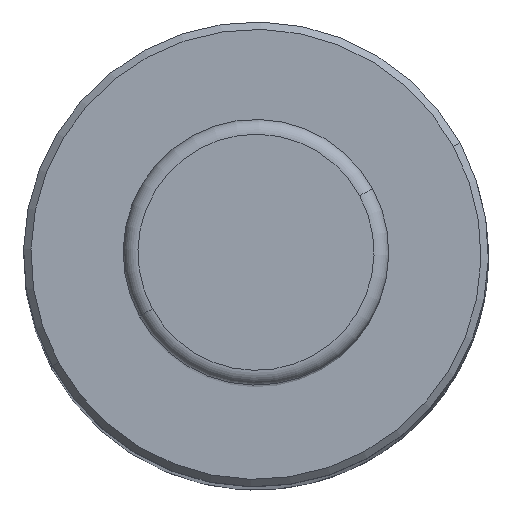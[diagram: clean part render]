
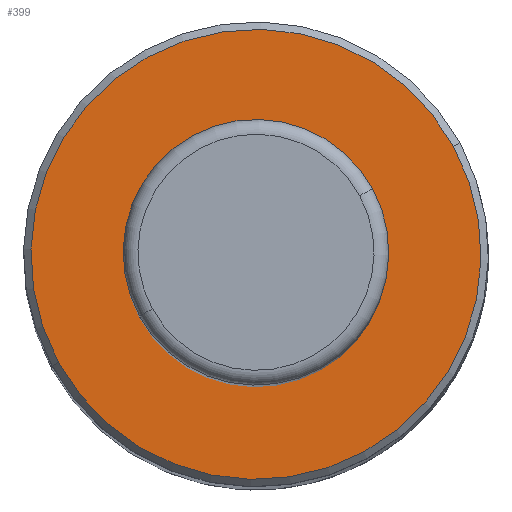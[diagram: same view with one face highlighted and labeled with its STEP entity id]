
A CAD part, top view. The second image highlights one B-rep face of the part: STEP entity #399.
In plain terms, the highlighted planar face has unit normal (0, 0, 1).
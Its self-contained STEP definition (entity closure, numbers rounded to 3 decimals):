
#376=CARTESIAN_POINT('Axis2P3D Location',(0.,0.,254.)) ;
#381=CARTESIAN_POINT('Axis2P3D Location',(0.,0.,254.)) ;
#385=CARTESIAN_POINT('Vertex',(26.766,14.622,254.)) ;
#387=CARTESIAN_POINT('Vertex',(-26.766,-14.622,254.)) ;
#390=CARTESIAN_POINT('Axis2P3D Location',(0.,0.,254.)) ;
#377=DIRECTION('Axis2P3D Direction',(0.,0.,1.)) ;
#378=DIRECTION('Axis2P3D XDirection',(1.,0.,0.)) ;
#382=DIRECTION('Axis2P3D Direction',(0.,0.,1.)) ;
#391=DIRECTION('Axis2P3D Direction',(0.,0.,1.)) ;
#379=AXIS2_PLACEMENT_3D('Plane Axis2P3D',#376,#377,#378) ;
#383=AXIS2_PLACEMENT_3D('Circle Axis2P3D',#381,#382,$) ;
#392=AXIS2_PLACEMENT_3D('Circle Axis2P3D',#390,#391,$) ;
#396=ORIENTED_EDGE('',*,*,#389,.T.) ;
#397=ORIENTED_EDGE('',*,*,#394,.T.) ;
#399=ADVANCED_FACE('',(#398),#380,.T.) ;
#384=CIRCLE('generated circle',#383,30.5) ;
#393=CIRCLE('generated circle',#392,30.5) ;
#389=EDGE_CURVE('',#386,#388,#384,.T.) ;
#394=EDGE_CURVE('',#388,#386,#393,.T.) ;
#395=EDGE_LOOP('',(#396,#397)) ;
#398=FACE_OUTER_BOUND('',#395,.T.) ;
#380=PLANE('Plane',#379) ;
#386=VERTEX_POINT('',#385) ;
#388=VERTEX_POINT('',#387) ;
